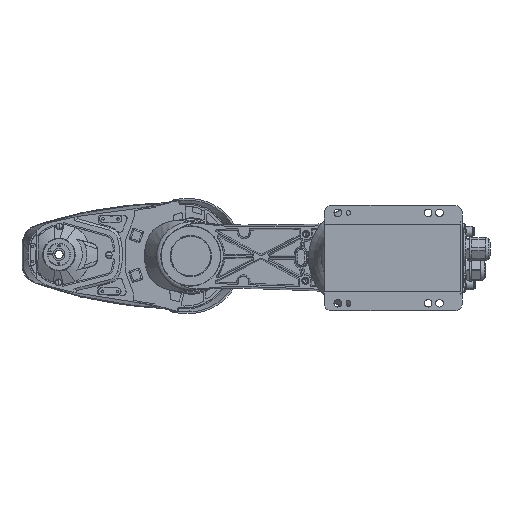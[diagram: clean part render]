
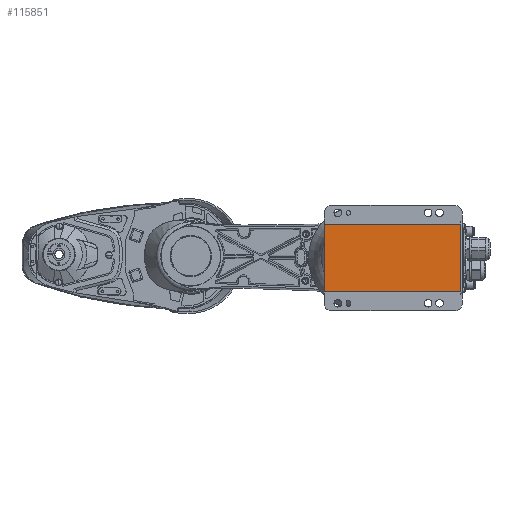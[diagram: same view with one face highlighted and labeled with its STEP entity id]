
A CAD part, front view. The second image highlights one B-rep face of the part: STEP entity #115851.
In plain terms, the highlighted planar face has unit normal (0, -1, 0).
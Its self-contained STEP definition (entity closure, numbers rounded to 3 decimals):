
#7104 = CARTESIAN_POINT ( 'NONE',  ( 133., 2., 45. ) ) ;
#7542 = CARTESIAN_POINT ( 'NONE',  ( 0., 2., 0. ) ) ;
#14682 = LINE ( 'NONE', #7104, #79144 ) ;
#19668 = CARTESIAN_POINT ( 'NONE',  ( 133., 2., -45. ) ) ;
#21647 = ORIENTED_EDGE ( 'NONE', *, *, #96278, .T. ) ;
#22899 = EDGE_CURVE ( 'NONE', #33752, #116360, #14682, .T. ) ;
#27025 = VERTEX_POINT ( 'NONE', #102577 ) ;
#29868 = VECTOR ( 'NONE', #42007, 1000. ) ;
#30706 = VECTOR ( 'NONE', #46522, 1000. ) ;
#33752 = VERTEX_POINT ( 'NONE', #75106 ) ;
#37050 = CARTESIAN_POINT ( 'NONE',  ( 133., 2., 45. ) ) ;
#37886 = VERTEX_POINT ( 'NONE', #19668 ) ;
#42007 = DIRECTION ( 'NONE',  ( 1., 0., 0. ) ) ;
#46456 = ORIENTED_EDGE ( 'NONE', *, *, #22899, .T. ) ;
#46522 = DIRECTION ( 'NONE',  ( 0., 0., -1. ) ) ;
#47781 = CARTESIAN_POINT ( 'NONE',  ( -48., 2., 45. ) ) ;
#56084 = DIRECTION ( 'NONE',  ( 1., 0., 0. ) ) ;
#57219 = LINE ( 'NONE', #47781, #30706 ) ;
#57387 = ORIENTED_EDGE ( 'NONE', *, *, #118866, .F. ) ;
#63011 = FACE_OUTER_BOUND ( 'NONE', #97250, .T. ) ;
#71453 = CARTESIAN_POINT ( 'NONE',  ( -48., 2., -45. ) ) ;
#75106 = CARTESIAN_POINT ( 'NONE',  ( 133., 2., 45. ) ) ;
#75966 = DIRECTION ( 'NONE',  ( 0., 0., -1. ) ) ;
#78256 = CARTESIAN_POINT ( 'NONE',  ( -48., 2., 45. ) ) ;
#79144 = VECTOR ( 'NONE', #82666, 1000. ) ;
#80870 = LINE ( 'NONE', #71453, #29868 ) ;
#82666 = DIRECTION ( 'NONE',  ( -1., 0., 0. ) ) ;
#83103 = PLANE ( 'NONE',  #99990 ) ;
#94549 = VECTOR ( 'NONE', #75966, 1000. ) ;
#94899 = LINE ( 'NONE', #37050, #94549 ) ;
#96278 = EDGE_CURVE ( 'NONE', #27025, #37886, #80870, .T. ) ;
#97250 = EDGE_LOOP ( 'NONE', ( #57387, #46456, #122594, #21647 ) ) ;
#99990 = AXIS2_PLACEMENT_3D ( 'NONE', #7542, #101429, #56084 ) ;
#101429 = DIRECTION ( 'NONE',  ( 0., 1., 0. ) ) ;
#102577 = CARTESIAN_POINT ( 'NONE',  ( -48., 2., -45. ) ) ;
#110070 = EDGE_CURVE ( 'NONE', #116360, #27025, #57219, .T. ) ;
#115851 = ADVANCED_FACE ( 'NONE', ( #63011 ), #83103, .F. ) ;
#116360 = VERTEX_POINT ( 'NONE', #78256 ) ;
#118866 = EDGE_CURVE ( 'NONE', #33752, #37886, #94899, .T. ) ;
#122594 = ORIENTED_EDGE ( 'NONE', *, *, #110070, .T. ) ;
